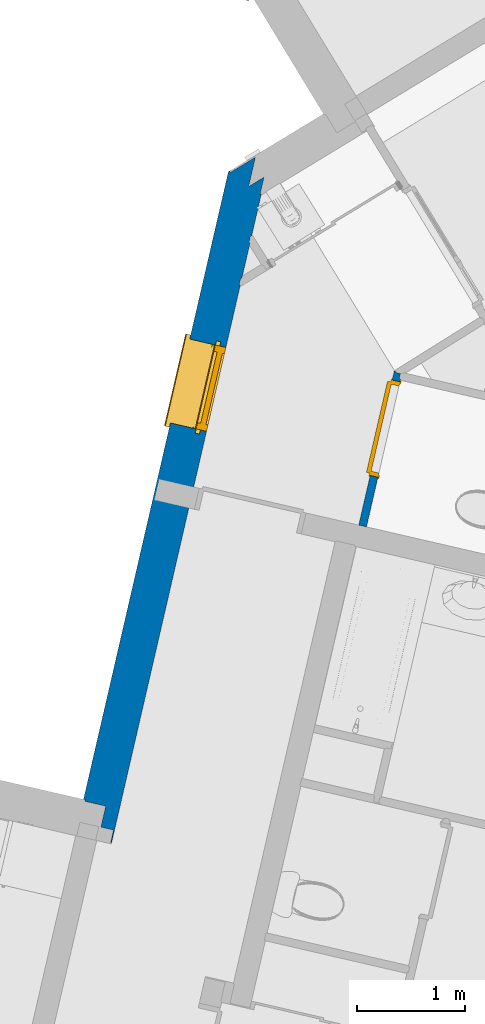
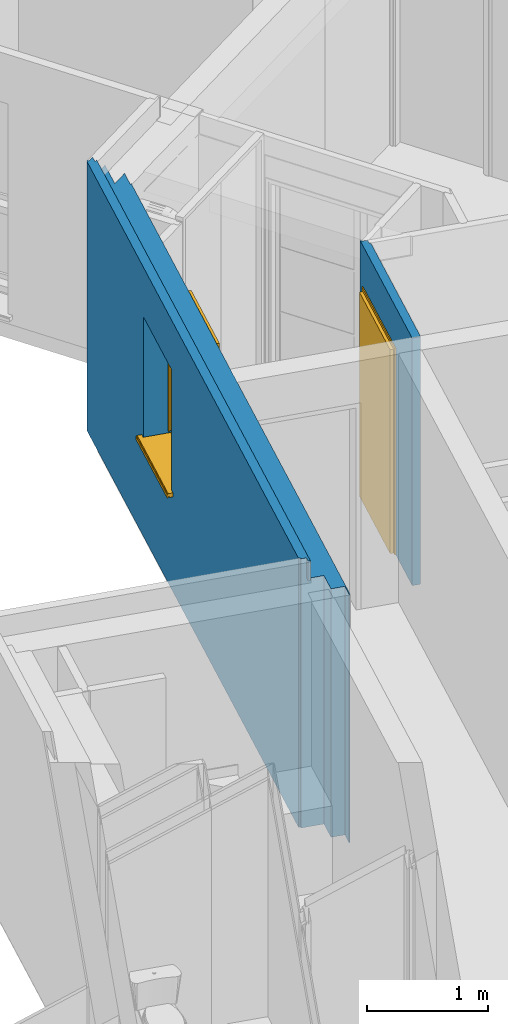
# One storey, part 34 of 90: 2 walls, 1 door, 1 window, 2 openings.
"""IFC2X3 building model written with IfcOpenShell, lengths in metres."""

from ifc_helpers import new_model, entity, si_unit, converted_unit, derived_unit, money_unit, direction, frame, origin_with_axes, place, context, subcontext, project, spatial, open_shell, faceted_brep, surface_model, source, transform, mapped, material, material_list, type_object, element, fill, save


model = new_model("IFC2X3")

# Units and contexts
model_context = context("Model", 3, precision=1e-05, world=origin_with_axes(), true_north=direction((0.0, 1.0)))
body_context = subcontext(model_context, "Body", "Model", "MODEL_VIEW")
ifc_project = project(units=[si_unit("LENGTHUNIT", "METRE"), si_unit("AREAUNIT", "SQUARE_METRE"), si_unit("VOLUMEUNIT", "CUBIC_METRE"), converted_unit("PLANEANGLEUNIT", "DEGREE", entity("IfcPlaneAngleMeasure", 0.0174532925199), si_unit("PLANEANGLEUNIT", "RADIAN"), dimensions=[0, 0, 0, 0, 0, 0, 0]), si_unit("SOLIDANGLEUNIT", "STERADIAN"), money_unit("EUR"), converted_unit("TIMEUNIT", "Year", entity("IfcTimeMeasure", 31556926.0), si_unit("TIMEUNIT", "SECOND"), dimensions=[0, 0, 1, 0, 0, 0, 0]), si_unit("MASSUNIT", "GRAM", prefix="KILO"), si_unit("THERMODYNAMICTEMPERATUREUNIT", "DEGREE_CELSIUS"), si_unit("LUMINOUSINTENSITYUNIT", "LUMEN"), si_unit("ENERGYUNIT", "JOULE", prefix="MEGA"), derived_unit("THERMALCONDUCTANCEUNIT", [(si_unit("POWERUNIT", "WATT"), 1), (si_unit("LENGTHUNIT", "METRE"), -1), (si_unit("THERMODYNAMICTEMPERATUREUNIT", "KELVIN"), -1)]), derived_unit("SPECIFICHEATCAPACITYUNIT", [(si_unit("ENERGYUNIT", "JOULE"), 1), (si_unit("MASSUNIT", "GRAM", prefix="KILO"), -1), (si_unit("THERMODYNAMICTEMPERATUREUNIT", "KELVIN"), -1)]), derived_unit("MASSDENSITYUNIT", [(si_unit("MASSUNIT", "GRAM", prefix="KILO"), 1), (si_unit("VOLUMEUNIT", "CUBIC_METRE"), -1)])], contexts=[model_context])

# Site, building, storey
site_placement = place(None, origin_with_axes())
site = spatial("IfcSite", under=ifc_project, at=site_placement, Name="Site", CompositionType="ELEMENT")
building_placement = place(site_placement, origin_with_axes())
building = spatial("IfcBuilding", under=site, at=building_placement, Name="Bâtiment", CompositionType="ELEMENT")
storey_placement = place(building_placement, frame((0.0, 0.0, 2.72), z_axis=(0.0, 0.0, 1.0), x_axis=(1.0, 0.0, 0.0)))
storey = spatial("IfcBuildingStorey", under=building, at=storey_placement, Name="R+1", CompositionType="ELEMENT", Elevation=2.72)

# Wall, opening, window
ifc_material_1 = material(Name="Finition int - Plaque de plâtre")
ifc_material_2 = material(Name="Isolation - Polystyrène extrudé")
ifc_material_3 = material(Name="Bloc ELITHERM")
ifc_material_4 = material(Name="Isolation - Polystyrène expansé")
ifc_material_5 = material(Name="Mortier")
ifc_material_6 = material(Name="Béton cellulaire")
ifc_material_7 = material(Name="Finition ext - Crépis")
ifc_material_list_1 = material_list([ifc_material_1, ifc_material_2, ifc_material_3, ifc_material_4, ifc_material_5, ifc_material_6, ifc_material_7])
wall_type_1 = type_object("IfcWallType", Name="Mur ALKERN + planelle 21 345 x 2720", PredefinedType="USERDEFINED")
wall_1_placement = place(storey_placement, frame((-6.85053797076, 17.6412974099, 0.0), z_axis=(0.0, 0.0, 1.0), x_axis=(-0.22487619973, -0.974387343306, 0.0)))
wall_1 = element("IfcWall", 1, at=wall_1_placement, inside=storey, type_object=wall_type_1, material=ifc_material_list_1, Name="Mue bloc ALKERN isolé", ObjectType="SOLIDWALL", context=body_context, shape_type="Brep", body=[
    faceted_brep([(1.00027773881, 0.34499998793, 2.5), (0.933225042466, 0.34499998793, 2.5), (0.933225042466, 0.34499998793, 0.0), (0.605100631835, 0.34499998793, 0.0), (0.605100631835, 0.34499998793, 2.5), (0.537218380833, 0.34499998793, 2.5), (0.537218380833, 0.34499998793, 0.0), (0.131456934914, 0.34499998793, 0.0), (0.131456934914, 0.34499998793, 2.51), (6.32564186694, 0.34499998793, 2.51), (6.32564186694, 0.34499998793, 0.0), (1.00027773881, 0.34499998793, 0.0), (2.39770804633, 0.34499998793, 2.22), (2.39770804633, 0.34499998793, 2.4), (1.59770804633, 0.34499998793, 2.4), (1.59770804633, 0.34499998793, 2.22), (1.59770804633, 0.34499998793, 1.02), (2.39770804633, 0.34499998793, 1.02), (1.0100317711, 0.335000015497, 2.5), (0.942979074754, 0.335000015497, 2.5), (0.942979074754, 0.335000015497, 0.0), (0.5951006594, 0.335000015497, 0.0), (0.5951006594, 0.335000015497, 2.5), (0.527218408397, 0.335000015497, 2.5), (0.527218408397, 0.335000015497, 0.0), (0.141210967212, 0.335000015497, 0.0), (0.141210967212, 0.335000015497, 2.51), (6.32564186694, 0.335000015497, 2.51), (6.32564186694, 0.335000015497, 0.0), (1.0100317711, 0.335000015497, 0.0), (2.39770804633, 0.335000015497, 2.22), (2.39770804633, 0.335000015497, 2.4), (2.39770804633, 0.335000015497, 1.02), (1.59770804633, 0.335000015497, 2.4), (1.59770804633, 0.335000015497, 2.22), (1.59770804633, 0.335000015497, 1.02)], [[[0, 1, 2, 3, 4, 5, 6, 7, 8, 9, 10, 11], [12, 13, 14, 15, 16, 17]], [[0, 18, 19, 1]], [[1, 19, 20, 2]], [[20, 21, 3, 2]], [[3, 21, 22, 4]], [[4, 22, 23, 5]], [[5, 23, 24, 6]], [[7, 6, 24, 25]], [[8, 7, 25, 26]], [[26, 27, 9, 8]], [[9, 27, 28, 10]], [[28, 29, 11, 10]], [[11, 29, 18, 0]], [[30, 31, 13, 12, 17, 32]], [[14, 13, 31, 33]], [[15, 14, 33, 34, 35, 16]], [[16, 35, 32, 17]], [[21, 20, 19, 18, 29, 28, 27, 26, 25, 24, 23, 22], [31, 30, 32, 35, 34, 33]]]),
    faceted_brep([(1.59770804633, 0.215000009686, 1.02), (1.59770804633, 0.215000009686, 0.96), (1.59770804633, 0.286, 0.96), (1.59770804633, 0.286, 1.02), (1.59770804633, 0.335000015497, 1.02), (1.59770804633, 0.335000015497, 2.22), (1.59770804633, 0.335000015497, 2.4), (1.59770804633, 0.215, 2.4), (1.59770804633, 0.215, 2.22), (6.2056418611, 0.215000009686, 2.51), (0.0906279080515, 0.215000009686, 2.50999999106), (0.0906279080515, 0.215000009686, 0.0), (6.2056418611, 0.215000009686, 0.0), (2.39770804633, 0.215, 2.4), (2.39770804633, 0.215, 2.22), (2.39770804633, 0.215000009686, 1.02), (2.39770804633, 0.215000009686, 0.96), (2.39770804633, 0.286, 0.96), (2.39770804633, 0.286, 1.02), (2.39770804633, 0.335000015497, 1.02), (6.20564186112, 0.335000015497, 0.0), (-0.0264208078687, 0.335000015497, 0.0), (-0.0264208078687, 0.335000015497, 2.50999999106), (6.20564186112, 0.335000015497, 2.51), (2.39770804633, 0.335000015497, 2.22), (2.39770804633, 0.335000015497, 2.4)], [[[0, 1, 2, 3, 4, 5, 6, 7, 8]], [[9, 10, 11, 12], [1, 0, 8, 7, 13, 14, 15, 16]], [[1, 16, 17, 2]], [[18, 3, 2, 17]], [[3, 18, 19, 4]], [[20, 21, 22, 23], [5, 4, 19, 24, 25, 6]], [[25, 13, 7, 6]], [[23, 22, 10, 9]], [[11, 10, 22, 21]], [[12, 11, 21, 20]], [[12, 20, 23, 9]], [[18, 17, 16, 15, 14, 13, 25, 24, 19]]]),
    faceted_brep([(1.59770804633, 0.015, 1.02), (1.59770804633, 0.015, 0.96), (1.59770804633, 0.214999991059, 0.96), (1.59770804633, 0.214999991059, 1.02), (1.59770804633, 0.214999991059, 2.22), (1.59770804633, 0.015, 2.22), (6.00564185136, 0.015, 0.0), (6.00564185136, 0.015, 2.50999999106), (0.00632286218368, 0.015, 2.50999999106), (0.00632286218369, 0.015, 0.0), (2.39770804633, 0.015, 2.22), (2.39770804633, 0.015, 1.02), (2.39770804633, 0.015, 0.96), (2.39770804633, 0.214999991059, 0.96), (6.00564185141, 0.214999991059, 2.50999999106), (6.00564185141, 0.214999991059, 0.0), (-0.188758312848, 0.214999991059, 0.0), (-0.188758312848, 0.214999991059, 2.50999999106), (2.39770804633, 0.214999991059, 1.02), (2.39770804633, 0.214999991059, 2.22), (6.00564185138, 0.0829999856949, 2.50999999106), (-0.060004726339, 0.0829999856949, 2.50999999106)], [[[0, 1, 2, 3, 4, 5]], [[6, 7, 8, 9], [1, 0, 5, 10, 11, 12]], [[13, 2, 1, 12]], [[14, 15, 16, 17], [13, 18, 19, 4, 3, 2]], [[19, 10, 5, 4]], [[6, 15, 14, 20, 7]], [[7, 20, 21, 8]], [[8, 21, 17, 16, 9]], [[15, 6, 9, 16]], [[18, 13, 12, 11, 10, 19]], [[20, 14, 17, 21]]]),
    faceted_brep([(6.05364185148, 0.083000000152, 2.51999999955), (0.00704797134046, 0.083000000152, 2.51999999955), (0.00704797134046, 0.083000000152, 2.72), (6.05364185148, 0.083000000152, 2.72), (6.05364185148, 0.0630000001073, 2.51999999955), (0.0265560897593, 0.0630000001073, 2.51999999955), (0.0265560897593, 0.0630000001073, 2.72), (6.05364185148, 0.0630000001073, 2.72)], [[[0, 1, 2, 3]], [[4, 5, 1, 0]], [[5, 6, 2, 1]], [[3, 2, 6, 7]], [[4, 0, 3, 7]], [[7, 6, 5, 4]]]),
    faceted_brep([(-0.0600047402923, 0.083, 2.50999999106), (-0.0600047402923, 0.083, 2.51999999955), (6.00564185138, 0.083, 2.52), (6.00564185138, 0.083, 2.51), (0.00632286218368, 0.015, 2.51999999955), (0.00632286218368, 0.015, 2.50999999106), (6.00564185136, 0.015, 2.52), (6.00564185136, 0.015, 2.51)], [[[0, 1, 2, 3]], [[4, 1, 0, 5]], [[1, 4, 6, 2]], [[3, 2, 6, 7]], [[5, 0, 3, 7]], [[4, 5, 7, 6]]]),
    faceted_brep([(-0.0404966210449, 0.0629999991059, 2.51999999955), (-0.0404966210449, 0.0629999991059, 2.72), (6.00564185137, 0.0629999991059, 2.72), (6.00564185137, 0.0629999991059, 2.51999999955), (0.00632286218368, 0.015, 2.72), (0.00632286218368, 0.015, 2.51999999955), (6.00564185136, 0.015, 2.72), (6.00564185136, 0.015, 2.51999999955)], [[[0, 1, 2, 3]], [[4, 1, 0, 5]], [[1, 4, 6, 2]], [[3, 2, 6, 7]], [[5, 0, 3, 7]], [[4, 5, 7, 6]]]),
    faceted_brep([(1.59770804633, 0.0, 1.02), (1.59770804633, 0.0149999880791, 1.02), (1.59770804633, 0.0149999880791, 2.22), (1.59770804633, 0.0, 2.22), (1.59770804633, 0.0149999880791, 0.96), (1.59770804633, 0.0, 0.96), (5.99064185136, 0.0149999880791, 0.0), (-0.014631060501, 0.0149999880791, 0.0), (-0.014631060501, 0.0149999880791, 2.72), (5.99064185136, 0.0149999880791, 2.72), (2.39770804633, 0.0149999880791, 0.96), (2.39770804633, 0.0149999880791, 1.02), (2.39770804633, 0.0149999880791, 2.22), (2.39770804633, 0.0, 2.22), (1.66527307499e-08, 0.0, 2.72), (1.66527307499e-08, 0.0, 0.0), (5.99064185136, 0.0, 0.0), (5.99064185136, 0.0, 2.72), (2.39770804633, 0.0, 1.02), (2.39770804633, 0.0, 0.96)], [[[0, 1, 2, 3]], [[4, 1, 0, 5]], [[6, 7, 8, 9], [10, 11, 12, 2, 1, 4]], [[12, 13, 3, 2]], [[14, 15, 16, 17], [5, 0, 3, 13, 18, 19]], [[10, 4, 5, 19]], [[16, 15, 7, 6]], [[14, 8, 7, 15]], [[9, 8, 14, 17]], [[17, 16, 6, 9]], [[18, 11, 10, 19]], [[11, 18, 13, 12]]]),
])
opening_1_placement = place(wall_1_placement, frame((1.99770804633, 0.0, 1.02), z_axis=(0.0, 0.0, 1.0), x_axis=(1.0, 0.0, 0.0)))
opening_1 = element("IfcOpeningElement", 2, at=opening_1_placement, cuts=wall_1, Name="MEN 42", context=body_context, shape_type="Brep", body=[
    faceted_brep([(-0.4, 0.83499998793, 0.0), (0.4, 0.83499998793, 0.0), (0.4, 0.245, 0.0), (-0.4, 0.245, 0.0), (-0.4, 0.83499998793, 1.2), (0.4, 0.83499998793, 1.2), (0.4, 0.245, 1.2), (-0.4, 0.245, 1.2)], [[[0, 1, 2, 3]], [[0, 4, 5, 1]], [[1, 5, 6, 2]], [[3, 2, 6, 7]], [[4, 0, 3, 7]], [[5, 4, 7, 6]]]),
    faceted_brep([(-0.4, -0.34499998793, 0.0), (-0.4, -0.34499998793, 1.2), (-0.4, 0.245, 1.2), (-0.4, 0.245, 0.0), (0.4, -0.34499998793, 0.0), (0.4, -0.34499998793, 1.2), (0.4, 0.245, 1.2), (0.4, 0.245, 0.0)], [[[0, 1, 2, 3]], [[0, 4, 5, 1]], [[1, 5, 6, 2]], [[3, 2, 6, 7]], [[4, 0, 3, 7]], [[5, 4, 7, 6]]]),
    faceted_brep([(-0.4, -0.34499998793, 0.0), (-0.4, -0.34499998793, 1.2), (-0.4, 0.245, 1.2), (-0.4, 0.245, 0.0), (0.4, -0.34499998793, 0.0), (0.4, -0.34499998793, 1.2), (0.4, 0.245, 1.2), (0.4, 0.245, 0.0)], [[[0, 1, 2, 3]], [[0, 4, 5, 1]], [[1, 5, 6, 2]], [[3, 2, 6, 7]], [[4, 0, 3, 7]], [[5, 4, 7, 6]]]),
    faceted_brep([(-0.4, 0.80499998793, 1.2), (0.4, 0.80499998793, 1.2), (0.4, 0.215, 1.2), (-0.4, 0.215, 1.2), (-0.4, 0.80499998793, 1.38), (0.4, 0.80499998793, 1.38), (0.4, 0.215, 1.38), (-0.4, 0.215, 1.38)], [[[0, 1, 2, 3]], [[0, 4, 5, 1]], [[1, 5, 6, 2]], [[3, 2, 6, 7]], [[4, 0, 3, 7]], [[5, 4, 7, 6]]]),
    faceted_brep([(-0.4, -0.30399998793, 0.0), (0.4, -0.30399998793, 0.0), (0.4, 0.286, 0.0), (-0.4, 0.286, 0.0), (-0.4, -0.30399998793, -0.06), (0.4, -0.30399998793, -0.06), (0.4, 0.286, -0.06), (-0.4, 0.286, -0.06)], [[[0, 1, 2, 3]], [[0, 4, 5, 1]], [[1, 5, 6, 2]], [[3, 2, 6, 7]], [[4, 0, 3, 7]], [[5, 4, 7, 6]]]),
])
window_style = type_object("IfcWindowStyle", Name="Baie générique 2017 v2", ConstructionType="NOTDEFINED", OperationType="NOTDEFINED", ParameterTakesPrecedence=False, Sizeable=False)
shared_shape_1 = source(origin_with_axes(), body_context, "Body", "SurfaceModel", [
    faceted_brep([(-0.4, 0.1, 0.0), (0.4, 0.1, 0.0), (0.4, 0.0, 0.0), (-0.4, 0.0, 0.0), (-0.4, 0.1, 1.2), (0.4, 0.1, 1.2), (-0.34, 0.1, 0.05), (0.34, 0.1, 0.05), (0.34, 0.1, 1.15), (-0.34, 0.1, 1.15), (0.4, 0.0, 1.2), (-0.4, 0.0, 1.2), (-0.34, 0.0, 0.05), (-0.34, 0.0, 1.15), (0.34, 0.0, 1.15), (0.34, 0.0, 0.05)], [[[0, 1, 2, 3]], [[0, 4, 5, 1], [6, 7, 8, 9]], [[1, 5, 10, 2]], [[3, 2, 10, 11], [12, 13, 14, 15]], [[4, 0, 3, 11]], [[5, 4, 11, 10]], [[7, 6, 12, 15]], [[8, 7, 15, 14]], [[9, 8, 14, 13]], [[6, 9, 13, 12]]]),
    faceted_brep([(0.34, 0.08, 1.15), (0.34, 0.08, 0.05), (-0.34, 0.08, 0.05), (-0.34, 0.08, 1.15), (0.27, 0.08, 1.08), (-0.27, 0.08, 1.08), (-0.27, 0.08, 0.1), (0.27, 0.08, 0.1), (0.34, 0.03, 1.15), (0.34, 0.03, 0.05), (-0.34, 0.03, 0.05), (-0.34, 0.03, 1.15), (0.27, 0.03, 1.08), (-0.27, 0.03, 1.08), (-0.27, 0.03, 0.1), (0.27, 0.03, 0.1)], [[[0, 1, 2, 3], [4, 5, 6, 7]], [[1, 0, 8, 9]], [[10, 2, 1, 9]], [[11, 3, 2, 10]], [[0, 3, 11, 8]], [[5, 4, 12, 13]], [[14, 6, 5, 13]], [[15, 7, 6, 14]], [[4, 7, 15, 12]], [[11, 10, 9, 8], [15, 14, 13, 12]]]),
    surface_model("IfcShellBasedSurfaceModel", [(-0.34, 0.08, 0.05), (-0.34, 0.055, 0.05), (-0.34, 0.055, 1.15), (-0.34, 0.08, 1.15)], [open_shell([[[0, 1, 2, 3]]])]),
    surface_model("IfcShellBasedSurfaceModel", [(0.34, 0.08, 0.05), (0.34, 0.055, 0.05), (0.34, 0.055, 1.15), (0.34, 0.08, 1.15)], [open_shell([[[0, 1, 2, 3]]])]),
    surface_model("IfcShellBasedSurfaceModel", [(-0.34, 0.08, 0.05), (-0.34, 0.055, 0.05), (0.34, 0.055, 0.05), (0.34, 0.08, 0.05)], [open_shell([[[0, 1, 2, 3]]])]),
    surface_model("IfcShellBasedSurfaceModel", [(-0.34, 0.08, 1.15), (-0.34, 0.055, 1.15), (0.34, 0.055, 1.15), (0.34, 0.08, 1.15)], [open_shell([[[0, 1, 2, 3]]])]),
    surface_model("IfcShellBasedSurfaceModel", [(-0.34, 0.055, 0.05), (-0.34, 0.03, 0.05), (-0.34, 0.03, 1.15), (-0.34, 0.055, 1.15)], [open_shell([[[0, 1, 2, 3]]])]),
    surface_model("IfcShellBasedSurfaceModel", [(0.34, 0.055, 0.05), (0.34, 0.03, 0.05), (0.34, 0.03, 1.15), (0.34, 0.055, 1.15)], [open_shell([[[0, 1, 2, 3]]])]),
    surface_model("IfcShellBasedSurfaceModel", [(-0.34, 0.055, 0.05), (-0.34, 0.03, 0.05), (0.34, 0.03, 0.05), (0.34, 0.055, 0.05)], [open_shell([[[0, 1, 2, 3]]])]),
    surface_model("IfcShellBasedSurfaceModel", [(-0.34, 0.055, 1.15), (-0.34, 0.03, 1.15), (0.34, 0.03, 1.15), (0.34, 0.055, 1.15)], [open_shell([[[0, 1, 2, 3]]])]),
    faceted_brep([(-0.27, 0.0575, 0.1), (0.27, 0.0575, 0.1), (0.27, 0.0525, 0.1), (-0.27, 0.0525, 0.1), (-0.27, 0.0575, 1.08), (0.27, 0.0575, 1.08), (0.27, 0.0525, 1.08), (-0.27, 0.0525, 1.08)], [[[0, 1, 2, 3]], [[0, 4, 5, 1]], [[1, 5, 6, 2]], [[3, 2, 6, 7]], [[4, 0, 3, 7]], [[5, 4, 7, 6]]]),
    faceted_brep([(-0.4, -0.03, 0.0), (-0.375, -0.03, 0.0), (-0.375, -0.03, 1.2), (-0.4, -0.03, 1.2), (-0.4, -0.002, 0.0), (-0.375, -0.002, 0.0), (-0.375, -0.004, 0.0), (-0.398, -0.004, 0.0), (-0.398, -0.028, 0.0), (-0.375, -0.028, 0.0), (-0.375, -0.028, 1.2), (-0.398, -0.028, 1.2), (-0.398, -0.004, 1.2), (-0.375, -0.004, 1.2), (-0.375, -0.002, 1.2), (-0.4, -0.002, 1.2)], [[[0, 1, 2, 3]], [[0, 4, 5, 6, 7, 8, 9, 1]], [[1, 9, 10, 2]], [[3, 2, 10, 11, 12, 13, 14, 15]], [[4, 0, 3, 15]], [[5, 4, 15, 14]], [[6, 5, 14, 13]], [[7, 6, 13, 12]], [[8, 7, 12, 11]], [[9, 8, 11, 10]]]),
    faceted_brep([(0.4, -0.03, 0.0), (0.4, -0.03, 1.2), (0.375, -0.03, 1.2), (0.375, -0.03, 0.0), (0.4, -0.002, 0.0), (0.4, -0.002, 1.2), (0.375, -0.002, 1.2), (0.375, -0.004, 1.2), (0.398, -0.004, 1.2), (0.398, -0.028, 1.2), (0.375, -0.028, 1.2), (0.375, -0.028, 0.0), (0.398, -0.028, 0.0), (0.398, -0.004, 0.0), (0.375, -0.004, 0.0), (0.375, -0.002, 0.0)], [[[0, 1, 2, 3]], [[4, 5, 1, 0]], [[1, 5, 6, 7, 8, 9, 10, 2]], [[3, 2, 10, 11]], [[0, 3, 11, 12, 13, 14, 15, 4]], [[15, 6, 5, 4]], [[14, 7, 6, 15]], [[13, 8, 7, 14]], [[12, 9, 8, 13]], [[11, 10, 9, 12]]]),
    faceted_brep([(0.398, -0.028, 1.2), (-0.398, -0.028, 1.2), (-0.398, -0.028, 1.378), (0.398, -0.028, 1.378), (0.398, -0.03, 1.2), (-0.398, -0.03, 1.2), (-0.398, -0.03, 1.38), (-0.398, 0.17, 1.38), (-0.398, 0.17, 1.2), (-0.398, 0.168, 1.2), (-0.398, 0.168, 1.378), (0.398, 0.168, 1.378), (0.398, 0.168, 1.2), (0.398, 0.17, 1.2), (0.398, 0.17, 1.38), (0.398, -0.03, 1.38)], [[[0, 1, 2, 3]], [[4, 5, 1, 0]], [[1, 5, 6, 7, 8, 9, 10, 2]], [[3, 2, 10, 11]], [[0, 3, 11, 12, 13, 14, 15, 4]], [[15, 6, 5, 4]], [[14, 7, 6, 15]], [[13, 8, 7, 14]], [[12, 9, 8, 13]], [[11, 10, 9, 12]]]),
    faceted_brep([(0.398, 0.0724697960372, 1.27436337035), (0.398, 0.08, 1.29), (0.398, 0.0724697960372, 1.30563662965), (0.398, 0.0555495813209, 1.30949855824), (0.398, 0.041980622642, 1.29867767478), (0.398, 0.041980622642, 1.28132232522), (0.398, 0.0555495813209, 1.27050144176), (-0.398, 0.0724697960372, 1.27436337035), (-0.398, 0.08, 1.29), (-0.398, 0.0724697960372, 1.30563662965), (-0.398, 0.0555495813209, 1.30949855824), (-0.398, 0.041980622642, 1.29867767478), (-0.398, 0.041980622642, 1.28132232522), (-0.398, 0.0555495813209, 1.27050144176)], [[[0, 1, 2, 3, 4, 5, 6]], [[0, 7, 8, 1]], [[1, 8, 9, 2]], [[2, 9, 10, 3]], [[3, 10, 11, 4]], [[4, 11, 12, 5]], [[5, 12, 13, 6]], [[6, 13, 7, 0]], [[7, 13, 12, 11, 10, 9, 8]]]),
    faceted_brep([(0.388, 0.130275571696, 1.25615706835), (0.388, 0.138, 1.29), (0.388, 0.130275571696, 1.32384293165), (0.388, 0.108632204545, 1.35098285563), (0.388, 0.0773566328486, 1.36604437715), (0.388, 0.0426433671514, 1.36604437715), (0.388, 0.011367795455, 1.35098285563), (0.388, -0.0102755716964, 1.32384293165), (0.388, -0.018, 1.29), (0.388, -0.0102755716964, 1.25615706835), (0.388, 0.011367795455, 1.22901714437), (0.388, 0.0426433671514, 1.21395562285), (0.388, 0.0773566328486, 1.21395562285), (0.388, 0.108632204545, 1.22901714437), (-0.388, 0.130275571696, 1.25615706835), (-0.388, 0.138, 1.29), (-0.388, 0.130275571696, 1.32384293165), (-0.388, 0.108632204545, 1.35098285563), (-0.388, 0.0773566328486, 1.36604437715), (-0.388, 0.0426433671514, 1.36604437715), (-0.388, 0.011367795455, 1.35098285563), (-0.388, -0.0102755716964, 1.32384293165), (-0.388, -0.018, 1.29), (-0.388, -0.0102755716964, 1.25615706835), (-0.388, 0.011367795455, 1.22901714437), (-0.388, 0.0426433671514, 1.21395562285), (-0.388, 0.0773566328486, 1.21395562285), (-0.388, 0.108632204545, 1.22901714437)], [[[0, 1, 2, 3, 4, 5, 6, 7, 8, 9, 10, 11, 12, 13]], [[0, 14, 15, 1]], [[1, 15, 16, 2]], [[2, 16, 17, 3]], [[3, 17, 18, 4]], [[4, 18, 19, 5]], [[5, 19, 20, 6]], [[6, 20, 21, 7]], [[7, 21, 22, 8]], [[8, 22, 23, 9]], [[9, 23, 24, 10]], [[10, 24, 25, 11]], [[11, 25, 26, 12]], [[12, 26, 27, 13]], [[13, 27, 14, 0]], [[14, 27, 26, 25, 24, 23, 22, 21, 20, 19, 18, 17, 16, 15]]]),
    faceted_brep([(0.4, 0.17, 1.2), (0.398, 0.17, 1.2), (0.398, 0.17, 1.38), (0.4, 0.17, 1.38), (0.4, -0.03, 1.2), (0.398, -0.03, 1.2), (0.398, -0.03, 1.38), (0.4, -0.03, 1.38)], [[[0, 1, 2, 3]], [[4, 5, 1, 0]], [[1, 5, 6, 2]], [[3, 2, 6, 7]], [[0, 3, 7, 4]], [[7, 6, 5, 4]]]),
    faceted_brep([(-0.398, 0.17, 1.2), (-0.4, 0.17, 1.2), (-0.4, 0.17, 1.38), (-0.398, 0.17, 1.38), (-0.398, -0.03, 1.2), (-0.4, -0.03, 1.2), (-0.4, -0.03, 1.38), (-0.398, -0.03, 1.38)], [[[0, 1, 2, 3]], [[4, 5, 1, 0]], [[1, 5, 6, 2]], [[3, 2, 6, 7]], [[0, 3, 7, 4]], [[7, 6, 5, 4]]]),
    faceted_brep([(0.398, -0.004, 1.2), (-0.398, -0.004, 1.2), (-0.398, 0.168, 1.2), (0.398, 0.168, 1.2), (0.398, -0.004, 1.202), (-0.398, -0.004, 1.202), (-0.398, 0.168, 1.202), (0.398, 0.168, 1.202)], [[[0, 1, 2, 3]], [[4, 5, 1, 0]], [[1, 5, 6, 2]], [[3, 2, 6, 7]], [[0, 3, 7, 4]], [[7, 6, 5, 4]]]),
    faceted_brep([(-0.388, -0.006, 1.2), (-0.388, -0.006, 1.29), (0.388, -0.006, 1.29), (0.388, -0.006, 1.2), (-0.388, -0.026, 1.2), (-0.388, -0.026, 1.29), (0.388, -0.026, 1.29), (0.388, -0.026, 1.2)], [[[0, 1, 2, 3]], [[1, 0, 4, 5]], [[2, 1, 5, 6]], [[3, 2, 6, 7]], [[4, 0, 3, 7]], [[5, 4, 7, 6]]]),
    faceted_brep([(0.4, -0.00167949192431, -0.01), (0.4, 0.0, -0.00373205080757), (0.44, 0.0, -0.00373205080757), (0.44, 0.001, 0.0), (-0.44, 0.001, 0.0), (-0.44, 0.0, -0.00373205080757), (-0.4, 0.0, -0.00373205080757), (-0.4, -0.00167949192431, -0.01), (0.4, -0.009, -0.0173205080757), (0.4, -0.019, -0.02), (0.4, -0.245, -0.02), (0.4, -0.245, -0.06), (0.4, 0.0, -0.06), (0.44, 0.0, -0.06), (0.44, 0.041, -0.06), (0.44, 0.041, 0.0), (-0.44, 0.041, 0.0), (-0.44, 0.041, -0.06), (-0.44, 0.0, -0.06), (-0.4, 0.0, -0.06), (-0.4, -0.245, -0.02), (-0.4, -0.019, -0.02), (-0.4, -0.009, -0.0173205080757), (-0.4, -0.245, -0.06), (-0.44, -0.245, -0.02), (-0.44, -0.285, -0.02), (0.44, -0.285, -0.02), (0.44, -0.245, -0.02), (0.44, -0.245, -0.06), (0.44, -0.275, -0.06), (-0.44, -0.275, -0.06), (-0.44, -0.245, -0.06), (-0.44, -0.295, -0.03), (-0.44, -0.292071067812, -0.0229289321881), (-0.44, -0.275, -0.05), (-0.44, -0.285, -0.05), (-0.44, -0.285, -0.06), (-0.44, -0.295, -0.06), (0.44, -0.292071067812, -0.0229289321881), (0.44, -0.295, -0.03), (0.44, -0.295, -0.06), (0.44, -0.285, -0.06), (0.44, -0.285, -0.05), (0.44, -0.275, -0.05)], [[[0, 1, 2, 3, 4, 5, 6, 7]], [[1, 0, 8, 9, 10, 11, 12]], [[13, 2, 1, 12]], [[2, 13, 14, 15, 3]], [[16, 4, 3, 15]], [[4, 16, 17, 18, 5]], [[5, 18, 19, 6]], [[20, 21, 22, 7, 6, 19, 23]], [[8, 0, 7, 22]], [[9, 8, 22, 21]], [[10, 9, 21, 20, 24, 25, 26, 27]], [[10, 27, 28, 11]], [[11, 28, 29, 30, 31, 23, 19, 18, 17, 14, 13, 12]], [[17, 16, 15, 14]], [[20, 23, 31, 24]], [[32, 33, 25, 24, 31, 30, 34, 35, 36, 37]], [[25, 33, 38, 26]], [[28, 27, 26, 38, 39, 40, 41, 42, 43, 29]], [[34, 30, 29, 43]], [[33, 32, 39, 38]], [[35, 34, 43, 42]], [[36, 35, 42, 41]], [[37, 36, 41, 40]], [[32, 37, 40, 39]]]),
])
window_placement = place(opening_1_placement, frame((-0.4, 0.0, 0.0), z_axis=(0.0, 0.0, 1.0), x_axis=(1.0, 0.0, 0.0)))
window = element("IfcWindow", 3, at=window_placement, inside=storey, type_object=window_style, Name="MEN 42", ObjectType="WINDOW", OverallHeight=1.2, OverallWidth=0.8, context=body_context, shape_type="MappedRepresentation", body=[
    mapped(shared_shape_1, transform((0.4, 0.245, 0.0))),
])
fill(opening_1, window)

# Wall, opening, door
ifc_material_8 = material(Name="Isolation - Laine de roche")
ifc_material_list_2 = material_list([ifc_material_1, ifc_material_8, ifc_material_1])
wall_type_2 = type_object("IfcWallType", Name="3 - Cloison 72mm Placostil 74", PredefinedType="USERDEFINED")
wall_2_placement = place(storey_placement, frame((-5.63885297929, 14.3545675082, 0.0), z_axis=(0.0, 0.0, 1.0), x_axis=(0.224876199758, 0.9743873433, 0.0)))
wall_2 = element("IfcWall", 4, at=wall_2_placement, inside=storey, type_object=wall_type_2, material=ifc_material_list_2, Name="Cloison Placostil 72/48", ObjectType="PARTITIONING", context=body_context, shape_type="Brep", body=[
    faceted_brep([(0.474638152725, -0.013, 0.0), (0.474638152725, -0.013, 2.08), (1.38463815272, -0.013, 2.08), (1.38463815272, -0.013, 0.0), (1.47399999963, -0.013, 0.0), (1.47399999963, -0.013, 2.31), (1.46246297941, -0.013, 2.31), (1.46246297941, -0.013, 2.5), (0.0, -0.013, 2.5), (0.0, -0.013, 0.0), (0.474638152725, 0.0, 0.0), (0.474638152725, 0.0, 2.08), (1.38463815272, 0.0, 2.08), (1.38463815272, 0.0, 0.0), (1.47399999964, 0.0, 0.0), (1.47399999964, 0.0, 2.5), (1.47399999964, -0.00173318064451, 2.5), (1.47399999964, -0.00173318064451, 2.31), (0.0, 0.0, 2.5), (0.0, 0.0, 0.0)], [[[0, 1, 2, 3, 4, 5, 6, 7, 8, 9]], [[1, 0, 10, 11]], [[2, 1, 11, 12]], [[3, 2, 12, 13]], [[3, 13, 14, 4]], [[4, 14, 15, 16, 17, 5]], [[6, 5, 17]], [[7, 6, 17, 16]], [[15, 18, 8, 7, 16]], [[9, 8, 18, 19]], [[10, 0, 9, 19]], [[11, 10, 19, 18, 15, 14, 13, 12]]]),
    faceted_brep([(0.474638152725, -0.061, 0.0), (0.474638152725, -0.061, 2.08), (1.38463815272, -0.061, 2.08), (1.38463815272, -0.061, 0.0), (1.46099999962, -0.061, 0.0), (1.46099999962, -0.061, 2.5), (0.0, -0.061, 2.5), (0.0, -0.061, 0.0), (0.474638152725, -0.013, 0.0), (0.474638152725, -0.013, 2.08), (1.38463815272, -0.013, 2.08), (1.38463815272, -0.013, 0.0), (1.46099999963, -0.013, 0.0), (1.46099999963, -0.013, 2.5), (0.0, -0.013, 2.5), (0.0, -0.013, 0.0)], [[[0, 1, 2, 3, 4, 5, 6, 7]], [[1, 0, 8, 9]], [[2, 1, 9, 10]], [[3, 2, 10, 11]], [[3, 11, 12, 4]], [[13, 5, 4, 12]], [[5, 13, 14, 6]], [[7, 6, 14, 15]], [[8, 0, 7, 15]], [[9, 8, 15, 14, 13, 12, 11, 10]]]),
    faceted_brep([(0.474638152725, -0.074, 0.0), (0.474638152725, -0.0740000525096, 2.08), (1.38463815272, -0.0740000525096, 2.08), (1.38463815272, -0.074, 0.0), (1.41299999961, -0.074, 0.0), (1.41299999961, -0.074, 2.31), (1.40000002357, -0.0740000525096, 2.31), (1.40000002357, -0.0740000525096, 2.5), (0.0, -0.074, 2.5), (0.0, -0.074, 0.0), (0.474638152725, -0.061, 0.0), (0.474638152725, -0.061, 2.08), (1.38463815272, -0.061, 2.08), (1.38463815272, -0.061, 0.0), (1.41299999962, -0.061, 0.0), (1.41299999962, -0.061, 2.5), (1.41299999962, -0.0613045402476, 2.5), (1.41299999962, -0.0613045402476, 2.31), (0.0, -0.061, 2.5), (0.0, -0.061, 0.0)], [[[0, 1, 2, 3, 4, 5, 6, 7, 8, 9]], [[1, 0, 10, 11]], [[2, 1, 11, 12]], [[3, 2, 12, 13]], [[3, 13, 14, 4]], [[4, 14, 15, 16, 17, 5]], [[6, 5, 17]], [[7, 6, 17, 16]], [[15, 18, 8, 7, 16]], [[8, 18, 19, 9]], [[10, 0, 9, 19]], [[11, 10, 19, 18, 15, 14, 13, 12]]]),
])
opening_2_placement = place(wall_2_placement, frame((0.929638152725, 0.0, 0.0), z_axis=(0.0, 0.0, 1.0), x_axis=(1.0, 0.0, 0.0)))
opening_2 = element("IfcOpeningElement", 5, at=opening_2_placement, cuts=wall_2, Name="Porte 83x204 bois alvéolaire", context=body_context, shape_type="Brep", body=[
    faceted_brep([(-0.455, 0.074, 0.0), (0.455, 0.074, 0.0), (0.455, -0.074, 0.0), (-0.455, -0.074, 0.0), (-0.455, 0.074, 2.08), (0.455, 0.074, 2.08), (0.455, -0.074, 2.08), (-0.455, -0.074, 2.08)], [[[0, 1, 2, 3]], [[0, 4, 5, 1]], [[1, 5, 6, 2]], [[3, 2, 6, 7]], [[4, 0, 3, 7]], [[5, 4, 7, 6]]]),
])
door_style = type_object("IfcDoorStyle", Name="Porte int générique 2019", ConstructionType="NOTDEFINED", OperationType="SINGLE_SWING_LEFT", ParameterTakesPrecedence=False, Sizeable=False)
shared_shape_2 = source(origin_with_axes(), body_context, "Body", "Brep", [
    faceted_brep([(-0.455, 0.0, 0.0), (-0.455, 0.0, 2.08), (0.455, 0.0, 2.08), (0.455, 0.0, 0.0), (0.415, 0.0, 0.0), (0.415, 0.0, 2.04), (-0.415, 0.0, 2.04), (-0.415, 0.0, 0.0), (-0.455, -0.074, 0.0), (-0.455, -0.074, 2.08), (0.455, -0.074, 2.08), (0.455, -0.074, 0.0), (0.415, -0.074, 0.0), (0.415, -0.074, 2.04), (-0.415, -0.074, 2.04), (-0.415, -0.074, 0.0)], [[[0, 1, 2, 3, 4, 5, 6, 7]], [[8, 9, 1, 0]], [[9, 10, 2, 1]], [[10, 11, 3, 2]], [[3, 11, 12, 4]], [[5, 4, 12, 13]], [[6, 5, 13, 14]], [[7, 6, 14, 15]], [[0, 7, 15, 8]], [[15, 14, 13, 12, 11, 10, 9, 8]]]),
    faceted_brep([(-0.465, 0.0, 0.0), (-0.465, 0.0, 2.09), (-0.465, 0.01, 2.09), (-0.465, 0.01, 0.0), (-0.435, 0.0, 0.0), (-0.435, 0.0, 2.06), (0.435, 0.0, 2.06), (0.435, 0.0, 0.0), (0.465, 0.0, 0.0), (0.465, 0.0, 2.09), (0.465, 0.01, 2.09), (0.465, 0.01, 0.0), (0.435, 0.01, 0.0), (0.435, 0.01, 2.06), (-0.435, 0.01, 2.06), (-0.435, 0.01, 0.0)], [[[0, 1, 2, 3]], [[4, 5, 6, 7, 8, 9, 1, 0]], [[1, 9, 10, 2]], [[3, 2, 10, 11, 12, 13, 14, 15]], [[0, 3, 15, 4]], [[15, 14, 5, 4]], [[14, 13, 6, 5]], [[13, 12, 7, 6]], [[8, 7, 12, 11]], [[9, 8, 11, 10]]]),
    faceted_brep([(-0.465, -0.084, 0.0), (-0.465, -0.084, 2.09), (-0.465, -0.074, 2.09), (-0.465, -0.074, 0.0), (-0.435, -0.084, 0.0), (-0.435, -0.084, 2.06), (0.435, -0.084, 2.06), (0.435, -0.084, 0.0), (0.465, -0.084, 0.0), (0.465, -0.084, 2.09), (0.465, -0.074, 2.09), (0.465, -0.074, 0.0), (0.435, -0.074, 0.0), (0.435, -0.074, 2.06), (-0.435, -0.074, 2.06), (-0.435, -0.074, 0.0)], [[[0, 1, 2, 3]], [[4, 5, 6, 7, 8, 9, 1, 0]], [[1, 9, 10, 2]], [[3, 2, 10, 11, 12, 13, 14, 15]], [[0, 3, 15, 4]], [[15, 14, 5, 4]], [[14, 13, 6, 5]], [[13, 12, 7, 6]], [[8, 7, 12, 11]], [[9, 8, 11, 10]]]),
    faceted_brep([(-0.435, 0.04, 0.0), (0.435, 0.04, 0.0), (0.435, 0.0, 0.0), (-0.435, 0.0, 0.0), (-0.435, 0.04, 2.06), (0.435, 0.04, 2.06), (0.435, 0.0, 2.06), (-0.435, 0.0, 2.06)], [[[0, 1, 2, 3]], [[0, 4, 5, 1]], [[1, 5, 6, 2]], [[3, 2, 6, 7]], [[4, 0, 3, 7]], [[5, 4, 7, 6]]]),
])
door_placement = place(opening_2_placement, frame((-0.415, 0.0, 0.0), z_axis=(0.0, 0.0, 1.0), x_axis=(1.0, 0.0, 0.0)))
door = element("IfcDoor", 6, at=door_placement, inside=storey, type_object=door_style, Name="Porte 83x204 bois alvéolaire", ObjectType="DOOR", OverallHeight=2.04, OverallWidth=0.83, context=body_context, shape_type="MappedRepresentation", body=[
    mapped(shared_shape_2, transform((0.415, 0.0, 0.0))),
])
fill(opening_2, door)

save(model, "model.ifc")
